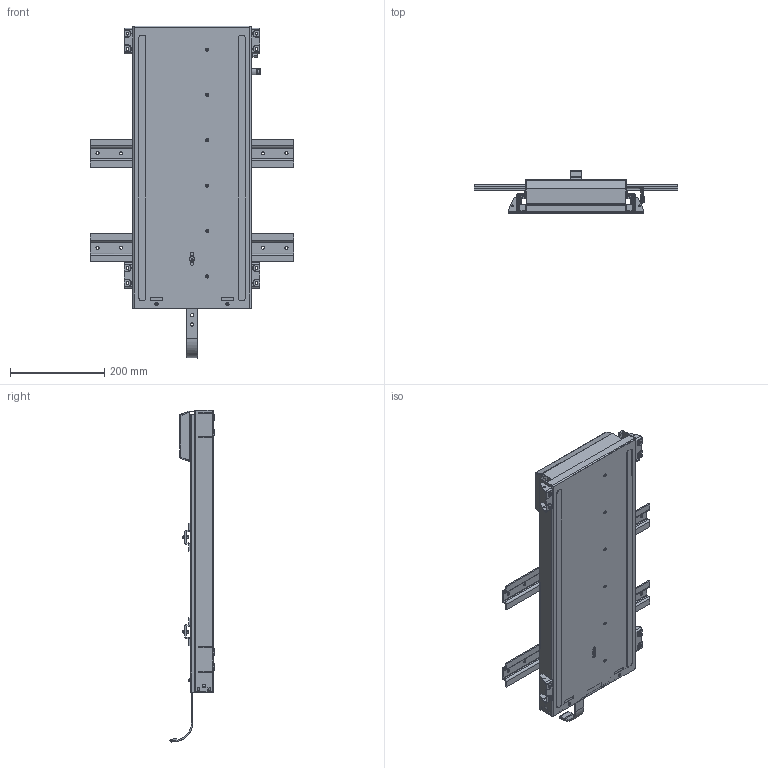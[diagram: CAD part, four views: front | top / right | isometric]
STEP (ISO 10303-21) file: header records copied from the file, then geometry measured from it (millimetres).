
FILE_DESCRIPTION( ( 'Unknown' ), '1' );
FILE_NAME( 'O:/Daten Solid Edge/CAD-Files/Zeichnungen CAD Kunden/3D STEP/Screenlift ST/116.00004 Screenlift ST 700A_e.stp', 'Unknown', ( 'Unknown' ), ( 'Unknown' ), 'PSStep 10.1', 'Unknown', ' ' );
FILE_SCHEMA( ( 'AUTOMOTIVE_DESIGN { 1 0 10303 214 1 1 1 1 }' ) );
Length unit declared in the file: millimetre
Products named in the file (869): Assem1; TS700A down
Bounding box: 430 x 93.27 x 702.75 mm (x, y, z)
Surface area: 2811132.6 mm2 (no closed solid volume)
Topology: 0 solids, 1736 shells, 1736 faces, 10958 edges, 10958 vertices
Faces by surface type: plane 910, cylinder 656, torus 116, cone 48, bspline 6
Entity records: 97419 total; most frequent: CARTESIAN_POINT 44463, ORIENTED_EDGE 5479, EDGE_CURVE 5479, VERTEX_POINT 5479, B_SPLINE_CURVE_WITH_KNOTS 5479, DIRECTION 3468, AXIS2_PLACEMENT_3D 1734, FACE_BOUND 1192
